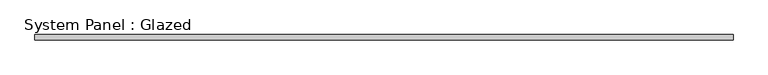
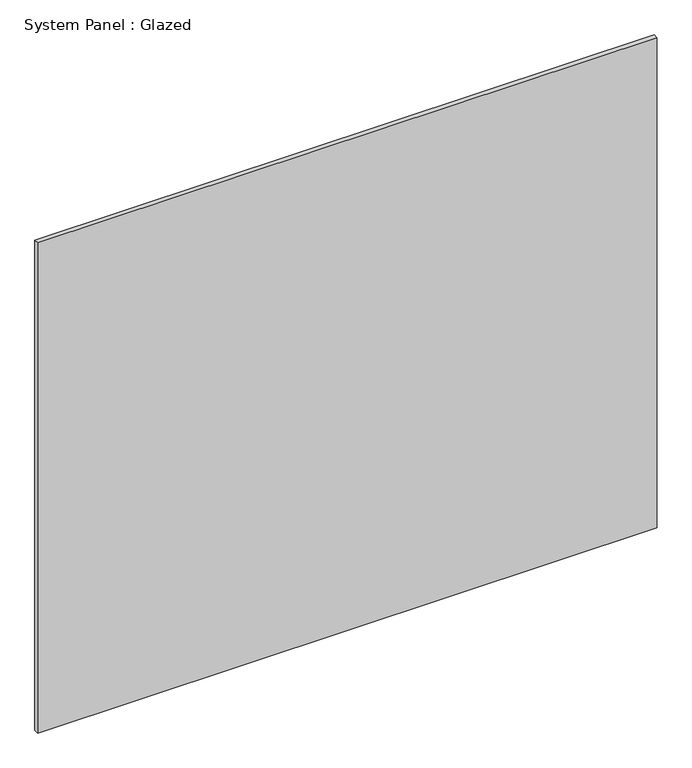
"""IFC4 building model written with IfcOpenShell, lengths in millimetres: plate geometry, System Panel : Glazed."""

from ifc_helpers import new_model, si_unit, origin, origin_with_axes, place, context, project, spatial, polyline, outline, extrude, source, transform, mapped, element, save


def system_panel_glazed_04dc8901(model_context):
    return source(origin(), model_context, "Body", "SweptSolid", [
        extrude(outline(polyline([(1643.75, 24.5), (-1643.75, 24.5), (-1643.75, 49.5), (1643.75, 49.5), (1643.75, 24.5)])), origin_with_axes(), (0.0, 0.0, 1.0), 2750.0),
    ])


if __name__ == "__main__":
    model = new_model("IFC4")
    model_context = context("Model", 3, world=origin())
    ifc_project = project(units=[si_unit("LENGTHUNIT", "METRE", prefix="MILLI")], contexts=[model_context])
    site = spatial("IfcSite", under=ifc_project)
    building = spatial("IfcBuilding", under=site)
    placement = place(None, origin())
    system_panel_glazed_shape = system_panel_glazed_04dc8901(model_context)
    element("IfcPlate", 1, ObjectType="System Panel : Glazed", at=placement, inside=building, context=model_context, shape_type="MappedRepresentation", body=[
        mapped(system_panel_glazed_shape, transform((0.0, 0.0, 0.0), x_axis=(1.0, 0.0, 0.0), y_axis=(0.0, 1.0, 0.0), z_axis=(0.0, 0.0, 1.0))),
    ])
    save(model, "model.ifc")
